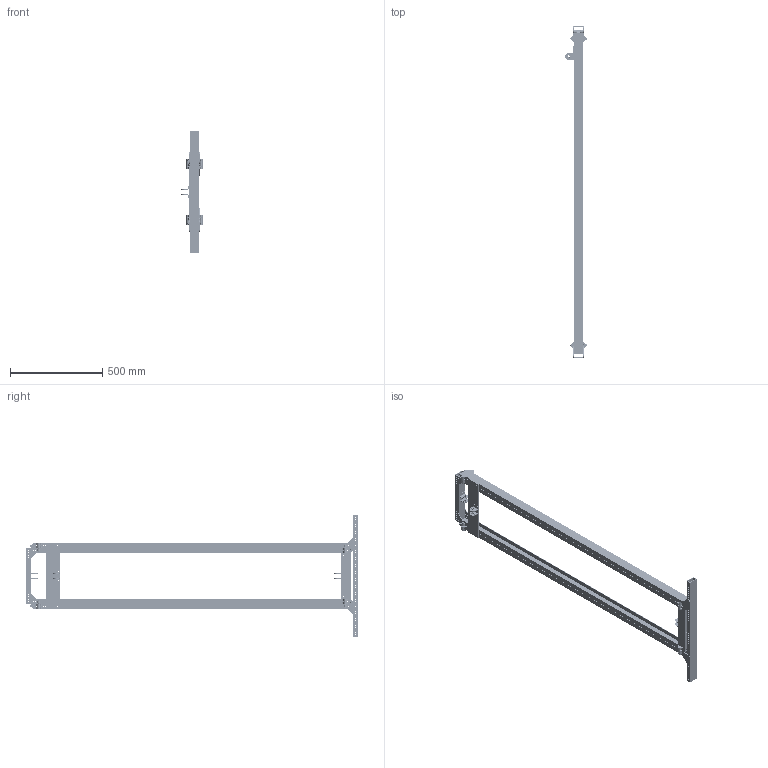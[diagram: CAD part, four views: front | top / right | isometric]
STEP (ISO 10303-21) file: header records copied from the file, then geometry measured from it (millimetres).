
FILE_DESCRIPTION(/* description */ (''),/* implementation_level */ '2;1');
FILE_NAME(/* name */ 'C:\Users\User\Desktop\CAD Public Postings\Elevator.stp',/* time_stamp */ '2017-01-05T16:51:06-08:00',/* author */ ('User'),/* organization */ (''),/* preprocessor_version */ 'ST-DEVELOPER v16.1',/* originating_system */ 'Autodesk Inventor 2016',/* authorisation */ '');
FILE_SCHEMA (('AUTOMOTIVE_DESIGN { 1 0 10303 214 3 1 1 }'));
Length unit declared in the file: inch
Products named in the file (19): BaseStageBottomStopper; BaseStageRail; TopRollerHolder; 3-4Roller; RollerSholderScrew8-32; TopRollerAssembly; SideRollersHolder; SideRollerAssemblyUpdated; TopBaseStageSupport; BaseStageGussets; AST_Bearings_FR6ZZ; PulleyBracket; BaseStageAssembly; FirstStageSideRail; FirstStageBottomInsertUpdated; FirstStageTopRail; FirstStageBottomSupport; FirstStageAssembly; FullLiftAssembly
Assembly tree (52 placements, depth 4):
  FullLiftAssembly
    BaseStageAssembly
      BaseStageBottomStopper
      BaseStageRail  x2
      TopRollerAssembly  x2
        TopRollerHolder
        3-4Roller
        RollerSholderScrew8-32
      SideRollerAssemblyUpdated  x4
        SideRollersHolder
        RollerSholderScrew8-32
        3-4Roller
      TopBaseStageSupport
      BaseStageGussets  x4
      AST_Bearings_FR6ZZ  x2
      PulleyBracket  x2
    FirstStageAssembly
      FirstStageSideRail  x2
      TopRollerAssembly  x2
        TopRollerHolder
        3-4Roller
        RollerSholderScrew8-32
      SideRollerAssemblyUpdated  x4
        SideRollersHolder
        RollerSholderScrew8-32
        3-4Roller
      FirstStageBottomInsertUpdated  x2
      FirstStageTopRail
      BaseStageGussets  x4
      FirstStageBottomSupport
      PulleyBracket  x4
      AST_Bearings_FR6ZZ  x4
Bounding box: 116.55 x 1795.25 x 660.4 mm (x, y, z)
Volume: 3717090.1 mm3; surface area: 2308229.5 mm2
Topology: 86 solids, 86 shells, 9536 faces, 22236 edges, 13198 vertices
Faces by surface type: plane 7012, cylinder 2116, cone 184, sphere 108, torus 84, bspline 32
Full cylindrical faces by diameter (mm): 3.134 x80, 3.454 x12, 3.962 x238, 4.762 x16, 5.105 x92, 6.35 x16, 7.938 x48, 8.731 x32, 9.525 x6, 13.377 x12, 13.511 x12, 14.804 x6, 15.478 x32, 16.446 x32, 16.946 x6, 18.373 x24, 19.05 x16, 22.225 x6, 22.403 x6, 24.511 x6
Entity records: 35113 total; most frequent: CARTESIAN_POINT 7897, DIRECTION 5544, ORIENTED_EDGE 4940, EDGE_CURVE 2470, AXIS2_PLACEMENT_3D 2202, EDGE_LOOP 1853, VERTEX_POINT 1713, LINE 1140
